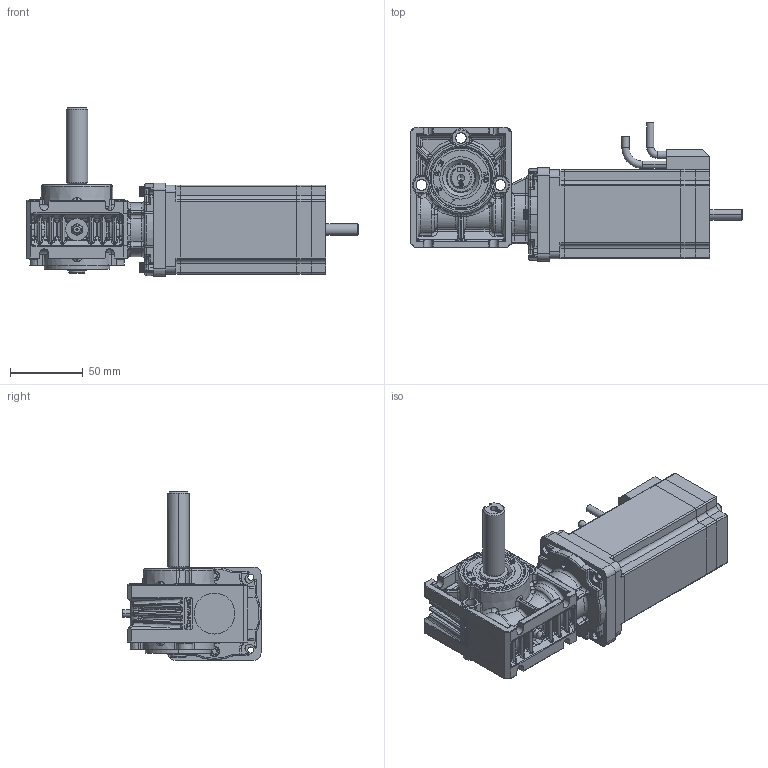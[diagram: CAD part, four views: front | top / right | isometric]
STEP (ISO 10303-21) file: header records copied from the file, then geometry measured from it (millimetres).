
FILE_DESCRIPTION (( 'STEP AP214' ), '1' );
FILE_NAME ('PBL60-70-GB28 - Shaft.STEP', '2024-11-26T17:20:30', ( '' ), ( '' ), 'SwSTEP 2.0', 'SolidWorks 2023', '' );
FILE_SCHEMA (( 'AUTOMOTIVE_DESIGN' ));
Length unit declared in the file: millimetre
Products named in the file (1): PBL60-70-GB28 - Shaft
Bounding box: 228 x 94.89 x 115.67 mm (x, y, z)
Volume: 616165 mm3; surface area: 155316.1 mm2
Topology: 24 solids, 24 shells, 4051 faces, 10356 edges, 6452 vertices
Faces by surface type: cylinder 1342, plane 1294, bspline 978, torus 169, cone 152, sphere 116
Entity records: 220256 total; most frequent: CARTESIAN_POINT 85371, ORIENTED_EDGE 20450, DIRECTION 16325, EDGE_CURVE 10225, VERTEX_POINT 6443, AXIS2_PLACEMENT_3D 5832, VECTOR 4661, LINE 4661
